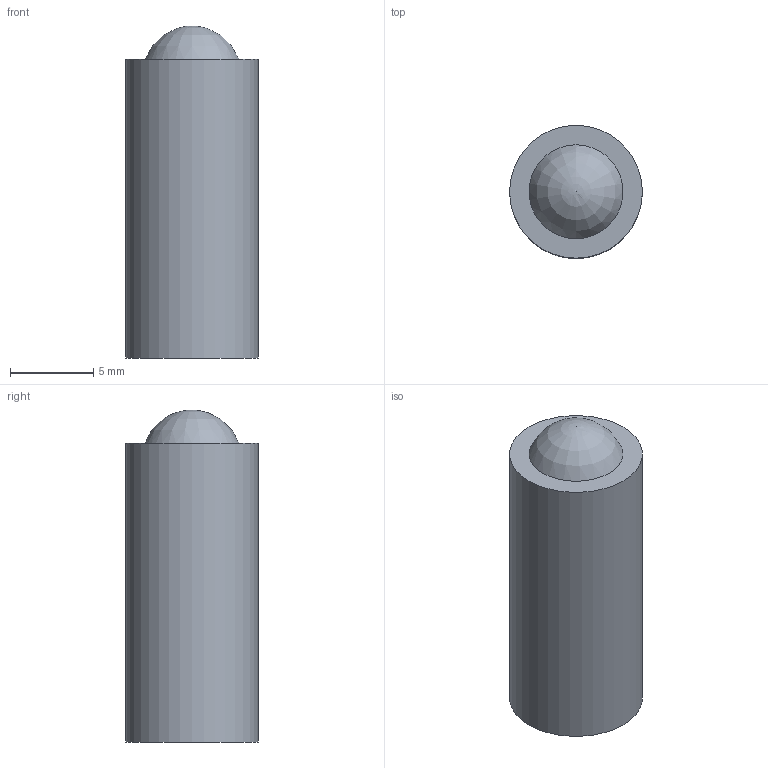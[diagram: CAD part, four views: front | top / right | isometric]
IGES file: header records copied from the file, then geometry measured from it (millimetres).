
Start section: Data from Parasolid IGES Translator 20.0.26, Copyright(c) 2006 Siemens P LM Software. All Rights Reserved.
Global section: file name: 9298863.igs; native system: By Siemens PLM Incorporated; preprocessor: XPlus GENERIC/IGES 20.0.26; author: Noname; organization: Noname; date: 20210824.171240; units: millimetre
Bounding box: 8 x 8 x 20 mm (x, y, z)
Surface area: 565.5 mm2 (no closed solid volume)
Topology: 0 solids, 0 shells, 4 faces, 11 edges, 8 vertices
Faces by surface type: extrusion 2, revolution 2
